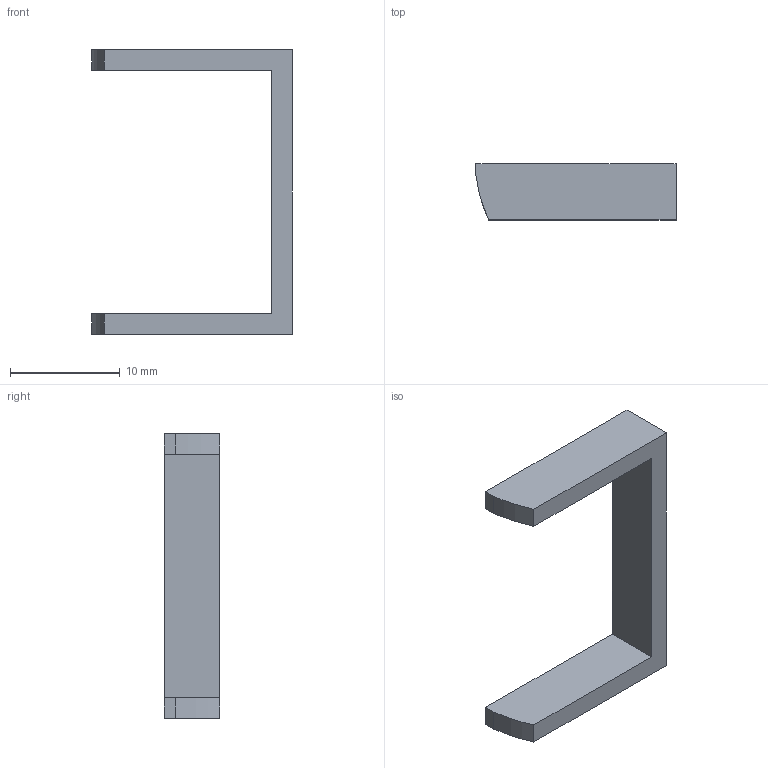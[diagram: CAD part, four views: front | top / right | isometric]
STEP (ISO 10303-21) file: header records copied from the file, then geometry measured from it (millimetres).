
FILE_DESCRIPTION(/* description */ (''),/* implementation_level */ '2;1');
FILE_NAME(/* name */ 'D:/Pew Pews/FGC-9_MkII_Stingray_Edition/Stingray Edition/.step files/3 - Buffer Tube and Stock/Stock/Stock Upper Color Inlay.step',/* time_stamp */ '2022-05-12T10:47:26-06:00',/* author */ (''),/* organization */ (''),/* preprocessor_version */ 'ST-DEVELOPER v18.1',/* originating_system */ 'Autodesk Translation Framework v10.10.0.1391',/* authorisation */ '');
FILE_SCHEMA (('AUTOMOTIVE_DESIGN { 1 0 10303 214 3 1 1 }'));
Length unit declared in the file: millimetre
Products named in the file (1): upper inset
Bounding box: 18.26 x 5.09 x 26 mm (x, y, z)
Volume: 561 mm3; surface area: 829.3 mm2
Topology: 1 solids, 1 shells, 16 faces, 42 edges, 28 vertices
Faces by surface type: plane 14, bspline 2
Entity records: 574 total; most frequent: CARTESIAN_POINT 157, ORIENTED_EDGE 84, DIRECTION 64, EDGE_CURVE 42, LINE 34, VECTOR 34, VERTEX_POINT 28, FACE_OUTER_BOUND 16
